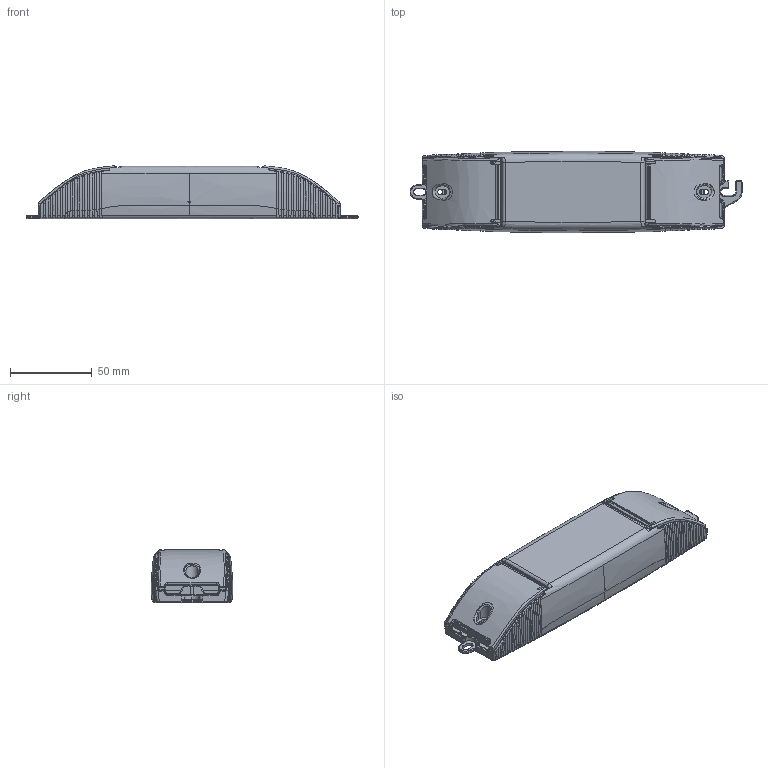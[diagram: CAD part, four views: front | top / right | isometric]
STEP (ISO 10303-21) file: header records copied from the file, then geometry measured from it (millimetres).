
FILE_DESCRIPTION (( 'STEP AP214' ), '1' );
FILE_NAME ('PTi20I.STEP', '2010-01-28T13:06:50', ( 'OSRAM' ), ( 'OSRAM GmbH' ), 'SwSTEP 2.0', 'SolidWorks 2009', '' );
FILE_SCHEMA (( 'AUTOMOTIVE_DESIGN' ));
Length unit declared in the file: millimetre
Products named in the file (4): ZNN-2507198-000-00-B; ZNN-2507199-000-00-A; PTi20I; ZNN-2507197-000-00-E
Assembly tree (4 placements, depth 2):
  PTi20I
    ZNN-2507199-000-00-A  x2
    ZNN-2507197-000-00-E
    ZNN-2507198-000-00-B
Bounding box: 203.5 x 50 x 32.57 mm (x, y, z)
Volume: 56869.8 mm3; surface area: 71775.4 mm2
Topology: 4 solids, 8 shells, 1922 faces, 5146 edges, 3232 vertices
Faces by surface type: plane 681, bspline 579, cylinder 507, torus 78, cone 69, sphere 8
Entity records: 98149 total; most frequent: CARTESIAN_POINT 60592, ORIENTED_EDGE 9512, DIRECTION 5066, EDGE_CURVE 4756, VERTEX_POINT 2993, B_SPLINE_CURVE_WITH_KNOTS 2442, EDGE_LOOP 1819, FACE_OUTER_BOUND 1786
